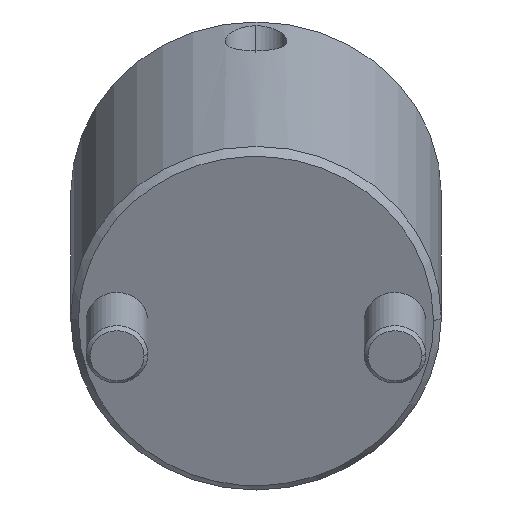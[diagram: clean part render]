
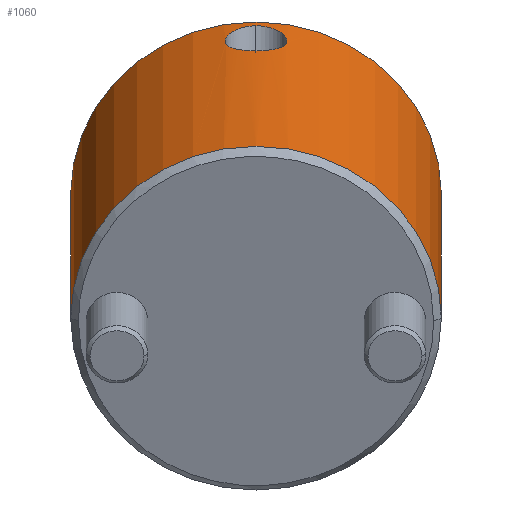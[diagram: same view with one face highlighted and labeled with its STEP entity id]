
A CAD part, front view. The second image highlights one B-rep face of the part: STEP entity #1060.
In plain terms, the highlighted cylindrical face has radius 24 mm (diameter 48 mm), a partial arc.
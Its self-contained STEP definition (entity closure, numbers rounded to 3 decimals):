
#802=CARTESIAN_POINT('Vertex',(0.,24.,1.)) ;
#805=CARTESIAN_POINT('Axis2P3D Location',(0.,0.,1.)) ;
#809=CARTESIAN_POINT('Vertex',(0.,-24.,1.)) ;
#961=CARTESIAN_POINT('Axis2P3D Location',(0.,0.,-2.25)) ;
#966=CARTESIAN_POINT('Line Origine',(0.,24.,-2.25)) ;
#970=CARTESIAN_POINT('Vertex',(0.,24.,44.)) ;
#973=CARTESIAN_POINT('Axis2P3D Location',(0.,0.,44.)) ;
#977=CARTESIAN_POINT('Vertex',(0.,-24.,44.)) ;
#980=CARTESIAN_POINT('Line Origine',(0.,-24.,-2.25)) ;
#992=CARTESIAN_POINT('Control Point',(24.,0.,42.696)) ;
#993=CARTESIAN_POINT('Control Point',(24.,0.373,42.696)) ;
#994=CARTESIAN_POINT('Control Point',(23.993,0.739,42.646)) ;
#995=CARTESIAN_POINT('Control Point',(23.979,1.097,42.549)) ;
#996=CARTESIAN_POINT('Control Point',(23.939,1.793,42.264)) ;
#997=CARTESIAN_POINT('Control Point',(23.881,2.415,41.809)) ;
#998=CARTESIAN_POINT('Control Point',(23.849,2.711,41.532)) ;
#999=CARTESIAN_POINT('Control Point',(23.79,3.182,40.976)) ;
#1000=CARTESIAN_POINT('Control Point',(23.739,3.536,40.33)) ;
#1001=CARTESIAN_POINT('Control Point',(23.719,3.664,40.041)) ;
#1002=CARTESIAN_POINT('Control Point',(23.686,3.874,39.44)) ;
#1003=CARTESIAN_POINT('Control Point',(23.667,3.981,38.813)) ;
#1004=CARTESIAN_POINT('Control Point',(23.663,4.01,38.496)) ;
#1005=CARTESIAN_POINT('Control Point',(23.663,4.011,37.97)) ;
#1006=CARTESIAN_POINT('Control Point',(23.675,3.939,37.455)) ;
#1007=CARTESIAN_POINT('Control Point',(23.681,3.899,37.255)) ;
#1008=CARTESIAN_POINT('Control Point',(23.706,3.746,36.668)) ;
#1009=CARTESIAN_POINT('Control Point',(23.745,3.497,36.124)) ;
#1010=CARTESIAN_POINT('Control Point',(23.775,3.289,35.783)) ;
#1011=CARTESIAN_POINT('Control Point',(23.832,2.858,35.241)) ;
#1012=CARTESIAN_POINT('Control Point',(23.889,2.326,34.806)) ;
#1013=CARTESIAN_POINT('Control Point',(23.911,2.084,34.644)) ;
#1014=CARTESIAN_POINT('Control Point',(23.954,1.546,34.35)) ;
#1015=CARTESIAN_POINT('Control Point',(23.984,0.96,34.166)) ;
#1016=CARTESIAN_POINT('Control Point',(23.995,0.644,34.1)) ;
#1017=CARTESIAN_POINT('Control Point',(24.,0.323,34.068)) ;
#1018=CARTESIAN_POINT('Control Point',(24.,0.,34.068)) ;
#1019=CARTESIAN_POINT('Vertex',(24.,0.,42.696)) ;
#1021=CARTESIAN_POINT('Vertex',(24.,0.,34.068)) ;
#1025=CARTESIAN_POINT('Control Point',(24.,0.,34.068)) ;
#1026=CARTESIAN_POINT('Control Point',(24.,-0.486,34.068)) ;
#1027=CARTESIAN_POINT('Control Point',(23.988,-0.966,34.141)) ;
#1028=CARTESIAN_POINT('Control Point',(23.963,-1.435,34.289)) ;
#1029=CARTESIAN_POINT('Control Point',(23.91,-2.136,34.637)) ;
#1030=CARTESIAN_POINT('Control Point',(23.846,-2.731,35.144)) ;
#1031=CARTESIAN_POINT('Control Point',(23.821,-2.936,35.354)) ;
#1032=CARTESIAN_POINT('Control Point',(23.772,-3.308,35.815)) ;
#1033=CARTESIAN_POINT('Control Point',(23.73,-3.592,36.337)) ;
#1034=CARTESIAN_POINT('Control Point',(23.712,-3.712,36.613)) ;
#1035=CARTESIAN_POINT('Control Point',(23.681,-3.903,37.188)) ;
#1036=CARTESIAN_POINT('Control Point',(23.665,-3.994,37.799)) ;
#1037=CARTESIAN_POINT('Control Point',(23.662,-4.014,38.113)) ;
#1038=CARTESIAN_POINT('Control Point',(23.664,-4.002,38.641)) ;
#1039=CARTESIAN_POINT('Control Point',(23.678,-3.918,39.161)) ;
#1040=CARTESIAN_POINT('Control Point',(23.686,-3.872,39.367)) ;
#1041=CARTESIAN_POINT('Control Point',(23.704,-3.758,39.776)) ;
#1042=CARTESIAN_POINT('Control Point',(23.729,-3.6,40.171)) ;
#1043=CARTESIAN_POINT('Control Point',(23.742,-3.51,40.362)) ;
#1044=CARTESIAN_POINT('Control Point',(23.771,-3.31,40.733)) ;
#1045=CARTESIAN_POINT('Control Point',(23.803,-3.071,41.078)) ;
#1046=CARTESIAN_POINT('Control Point',(23.82,-2.941,41.243)) ;
#1047=CARTESIAN_POINT('Control Point',(23.86,-2.605,41.624)) ;
#1048=CARTESIAN_POINT('Control Point',(23.898,-2.226,41.944)) ;
#1049=CARTESIAN_POINT('Control Point',(23.92,-1.985,42.113)) ;
#1050=CARTESIAN_POINT('Control Point',(23.959,-1.469,42.408)) ;
#1051=CARTESIAN_POINT('Control Point',(23.985,-0.91,42.595)) ;
#1052=CARTESIAN_POINT('Control Point',(23.995,-0.612,42.662)) ;
#1053=CARTESIAN_POINT('Control Point',(24.,-0.308,42.696)) ;
#1054=CARTESIAN_POINT('Control Point',(24.,0.,42.696)) ;
#806=DIRECTION('Axis2P3D Direction',(0.,0.,1.)) ;
#962=DIRECTION('Axis2P3D Direction',(0.,-0.,1.)) ;
#963=DIRECTION('Axis2P3D XDirection',(0.,-1.,0.)) ;
#967=DIRECTION('Vector Direction',(0.,0.,1.)) ;
#974=DIRECTION('Axis2P3D Direction',(0.,-0.,1.)) ;
#981=DIRECTION('Vector Direction',(0.,0.,1.)) ;
#807=AXIS2_PLACEMENT_3D('Circle Axis2P3D',#805,#806,$) ;
#964=AXIS2_PLACEMENT_3D('Cylinder Axis2P3D',#961,#962,#963) ;
#975=AXIS2_PLACEMENT_3D('Circle Axis2P3D',#973,#974,$) ;
#986=ORIENTED_EDGE('',*,*,#972,.F.) ;
#987=ORIENTED_EDGE('',*,*,#979,.T.) ;
#988=ORIENTED_EDGE('',*,*,#984,.T.) ;
#989=ORIENTED_EDGE('',*,*,#811,.F.) ;
#1057=ORIENTED_EDGE('',*,*,#1023,.T.) ;
#1058=ORIENTED_EDGE('',*,*,#1055,.T.) ;
#1059=FACE_BOUND('',#1056,.T.) ;
#968=VECTOR('Line Direction',#967,1.) ;
#982=VECTOR('Line Direction',#981,1.) ;
#1060=ADVANCED_FACE('MANIFOLD_SOLID_BREP #1134',(#990,#1059),#965,.T.) ;
#991=B_SPLINE_CURVE_WITH_KNOTS('',5,(#992,#993,#994,#995,#996,#997,#998,#999,#1000,#1001,#1002,#1003,#1004,#1005,#1006,#1007,#1008,#1009,#1010,#1011,#1012,#1013,#1014,#1015,#1016,#1017,#1018),.UNSPECIFIED.,.F.,.U.,(6,3,3,3,3,3,3,3,6),(0.,2.693,5.526,7.708,9.869,11.292,14.112,16.208,18.526),.UNSPECIFIED.) ;
#1024=B_SPLINE_CURVE_WITH_KNOTS('',5,(#1025,#1026,#1027,#1028,#1029,#1030,#1031,#1032,#1033,#1034,#1035,#1036,#1037,#1038,#1039,#1040,#1041,#1042,#1043,#1044,#1045,#1046,#1047,#1048,#1049,#1050,#1051,#1052,#1053,#1054),.UNSPECIFIED.,.F.,.U.,(6,3,3,3,3,3,3,3,3,6),(0.,3.487,5.592,7.718,9.853,11.307,12.759,14.188,16.298,18.521),.UNSPECIFIED.) ;
#808=CIRCLE('generated circle',#807,24.) ;
#976=CIRCLE('generated circle',#975,24.) ;
#965=CYLINDRICAL_SURFACE('generated cylinder',#964,24.) ;
#811=EDGE_CURVE('',#803,#810,#808,.F.) ;
#972=EDGE_CURVE('',#971,#803,#969,.F.) ;
#979=EDGE_CURVE('',#971,#978,#976,.F.) ;
#984=EDGE_CURVE('',#978,#810,#983,.F.) ;
#1023=EDGE_CURVE('',#1020,#1022,#991,.T.) ;
#1055=EDGE_CURVE('',#1022,#1020,#1024,.T.) ;
#985=EDGE_LOOP('',(#986,#987,#988,#989)) ;
#1056=EDGE_LOOP('',(#1057,#1058)) ;
#990=FACE_OUTER_BOUND('',#985,.T.) ;
#969=LINE('Line',#966,#968) ;
#983=LINE('Line',#980,#982) ;
#803=VERTEX_POINT('',#802) ;
#810=VERTEX_POINT('',#809) ;
#971=VERTEX_POINT('',#970) ;
#978=VERTEX_POINT('',#977) ;
#1020=VERTEX_POINT('',#1019) ;
#1022=VERTEX_POINT('',#1021) ;
